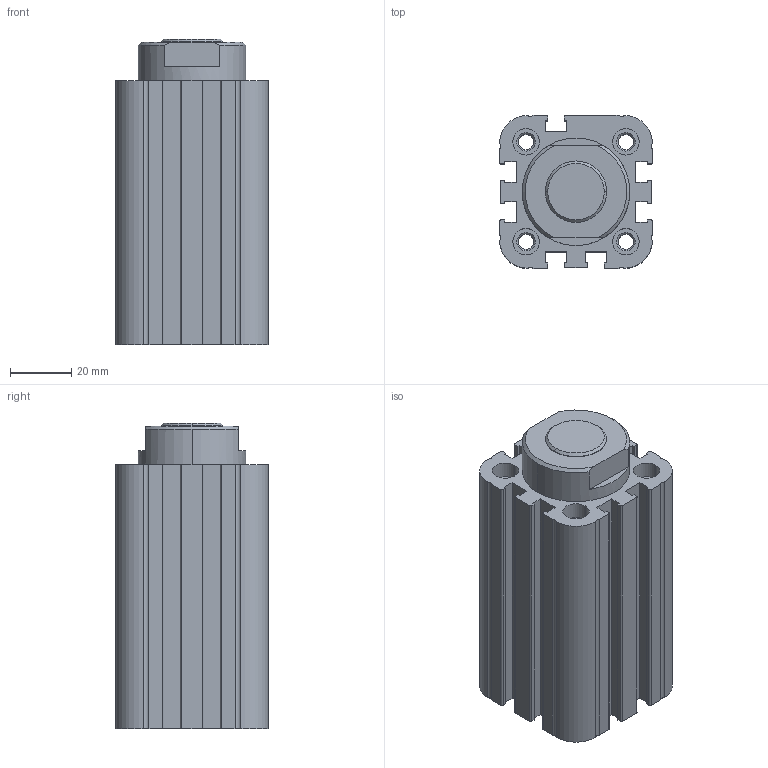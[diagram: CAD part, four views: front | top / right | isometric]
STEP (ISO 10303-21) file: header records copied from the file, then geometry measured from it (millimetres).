
FILE_DESCRIPTION((''),'2;1');
FILE_NAME('R452000633_ASM','2023-05-16T09:04:41',('THD3HC'),(''),'CREO PARAMETRIC BY PTC INC, 2020044','CREO PARAMETRIC BY PTC INC, 2020044','');
FILE_SCHEMA(('CONFIG_CONTROL_DESIGN','SHAPE_APPEARANCE_LAYERS_GROUPS'));
Length unit declared in the file: millimetre
Products named in the file (3): R452000633-A; R452000633-B; R452000633_ASM
Assembly tree (2 placements, depth 2):
  R452000633_ASM
    R452000633-A
    R452000633-B
Bounding box: 49.7 x 49.7 x 99.5 mm (x, y, z)
Volume: 173894 mm3; surface area: 51855 mm2
Topology: 2 solids, 2 shells, 220 faces, 552 edges, 360 vertices
Faces by surface type: plane 108, cylinder 86, cone 26
Entity records: 8662 total; most frequent: DIRECTION 1208, CARTESIAN_POINT 1153, ORIENTED_EDGE 1104, PRESENTATION_STYLE_ASSIGNMENT 574, STYLED_ITEM 554, CURVE_STYLE 552, EDGE_CURVE 552, AXIS2_PLACEMENT_3D 435
